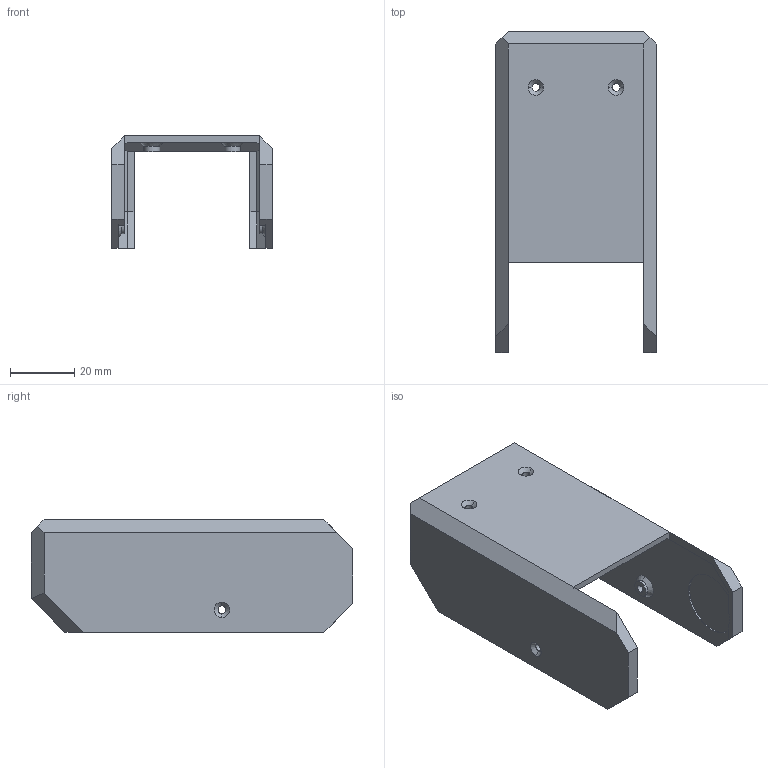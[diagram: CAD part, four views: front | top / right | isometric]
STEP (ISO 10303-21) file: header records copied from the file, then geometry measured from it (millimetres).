
FILE_DESCRIPTION((''),'2;1');
FILE_NAME('OP3_UNDER_ARM_CASE_VER1','2017-07-24T',('kimdolyang'),(''),'PRO/ENGINEER BY PARAMETRIC TECHNOLOGY CORPORATION, 2013410','PRO/ENGINEER BY PARAMETRIC TECHNOLOGY CORPORATION, 2013410','');
FILE_SCHEMA(('CONFIG_CONTROL_DESIGN'));
Length unit declared in the file: millimetre
Products named in the file (1): OP3_UNDER_ARM_CASE_VER1
Bounding box: 50 x 100 x 35 mm (x, y, z)
Volume: 19985 mm3; surface area: 21364.2 mm2
Topology: 1 solids, 1 shells, 88 faces, 224 edges, 142 vertices
Faces by surface type: plane 52, cylinder 20, cone 16
Entity records: 2686 total; most frequent: DIRECTION 460, CARTESIAN_POINT 454, ORIENTED_EDGE 448, EDGE_CURVE 224, VECTOR 164, LINE 164, AXIS2_PLACEMENT_3D 148, VERTEX_POINT 142
